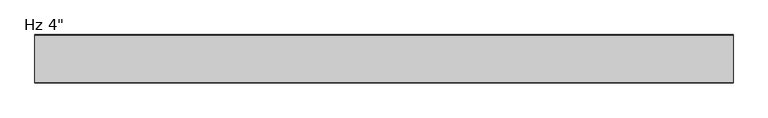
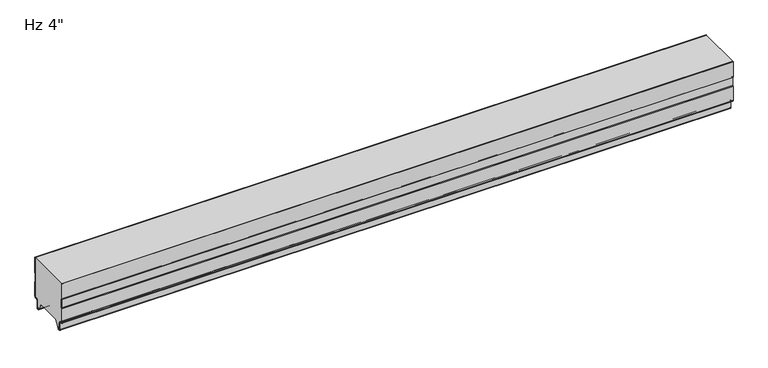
"""IFC4 building model written with IfcOpenShell, lengths in millimetres: plate geometry."""

from ifc_helpers import new_model, si_unit, frame, origin, place, context, project, spatial, polyline, circle_curve, source, transform, mapped, element, save
from ifc_brep_helpers import plane_surface, cylinder_surface, revolved_surface, advanced_brep


def plate_3c78480a(model_context):
    return source(origin(), model_context, "Body", "AdvancedBrep", [
        advanced_brep(
        [(-730.0, -1.0, 59.9218553), (-730.0, -1.0, 94.95), (-730.0, 0.0, 94.95), (-730.0, 0.0, 59.479416), (-730.0, -1.1911595, 58.4068912), (-730.0, -1.1911595, 39.5087751), (-730.0, 0.0, 38.4362503), (-730.0, 0.0, 5.8272193), (-730.0, -2.9772904, 2.8499526), (-730.0, -5.2691742, 2.8499526), (-730.0, -8.2464427, -0.1273159), (-730.0, -8.2464427, -15.7237419), (-730.0, -9.8343193, -17.3116185), (-730.0, -12.905868, -17.3116185), (-730.0, -14.4937445, -15.7237419), (-730.0, -14.4937445, -13.3687064), (-730.0, -13.4937445, -13.3687064), (-730.0, -13.4937445, -15.7237419), (-730.0, -12.905868, -16.3116185), (-730.0, -9.8343193, -16.3116185), (-730.0, -9.2464427, -15.7237419), (-730.0, -9.2464427, -0.1273159), (-730.0, -5.2691742, 3.8499526), (-730.0, -2.9772904, 3.8499526), (-730.0, -1.0000218, 5.82722), (-730.0, -1.0, 37.993811), (-730.0, -2.1911595, 39.0663358), (-730.0, -2.1911595, 58.8493305), (730.0, 0.0, 59.479416), (730.0, 0.0, 94.95), (730.0, -1.0, 94.95), (730.0, -1.0, 59.9218553), (730.0, -2.1911595, 58.8493305), (730.0, -2.1911595, 39.0663358), (730.0, -1.0, 37.993811), (730.0, -1.0, 5.82722), (730.0, -2.9772904, 3.8499526), (730.0, -5.2691742, 3.8499526), (730.0, -9.2464427, -0.1273159), (730.0, -9.2464427, -15.7237419), (730.0, -9.8343193, -16.3116185), (730.0, -12.905868, -16.3116185), (730.0, -13.4937445, -15.7237419), (730.0, -13.4937445, -13.3687064), (730.0, -14.4937445, -13.3687064), (730.0, -14.4937445, -15.7237419), (730.0, -12.905868, -17.3116185), (730.0, -9.8343193, -17.3116185), (730.0, -8.2464427, -15.7237419), (730.0, -8.2464427, -0.1273159), (730.0, -5.2691742, 2.8499526), (730.0, -2.9772904, 2.8499526), (730.0, -2.18e-05, 5.8272193), (730.0, 0.0, 38.4362503), (730.0, -1.1911595, 39.5087751), (730.0, -1.1911595, 58.4068912)],
        [
            (0, 1),
            (1, 2),
            (2, 3),
            (3, 4),
            (4, 5),
            (5, 6),
            (6, 7),
            (7, 8, circle_curve(frame((-730.0, -2.9772904, 5.8272211), z_axis=(-1.0, 0.0, 0.0), x_axis=(0.0, 1.0, 0.0)), 2.9772685)),
            (8, 9),
            (9, 10, circle_curve(frame((-730.0, -5.2691742, -0.1273159), z_axis=(1.0, 0.0, 0.0), x_axis=(0.0, 1.0, 0.0)), 2.9772685)),
            (10, 11),
            (11, 12, circle_curve(frame((-730.0, -9.8343193, -15.7237419), z_axis=(-1.0, 0.0, 0.0), x_axis=(0.0, 1.0, 0.0)), 1.5878765)),
            (12, 13),
            (13, 14, circle_curve(frame((-730.0, -12.905868, -15.7237419), z_axis=(-1.0, 0.0, 0.0), x_axis=(0.0, 1.0, 0.0)), 1.5878765)),
            (14, 15),
            (15, 16),
            (16, 17),
            (17, 18, circle_curve(frame((-730.0, -12.905868, -15.7237419), z_axis=(1.0, 0.0, 0.0), x_axis=(0.0, 1.0, 0.0)), 0.5878765)),
            (18, 19),
            (19, 20, circle_curve(frame((-730.0, -9.8343193, -15.7237419), z_axis=(1.0, 0.0, 0.0), x_axis=(0.0, 1.0, 0.0)), 0.5878765)),
            (20, 21),
            (21, 22, circle_curve(frame((-730.0, -5.2691742, -0.1273159), z_axis=(-1.0, 0.0, 0.0), x_axis=(0.0, 1.0, 0.0)), 3.9772685)),
            (22, 23),
            (23, 24, circle_curve(frame((-730.0, -2.9772904, 5.8272212), z_axis=(1.0, 0.0, 0.0), x_axis=(0.0, 1.0, 0.0)), 1.9772685)),
            (24, 25),
            (25, 26),
            (26, 27),
            (27, 0),
            (28, 29),
            (29, 30),
            (30, 31),
            (31, 32),
            (32, 33),
            (33, 34),
            (34, 35),
            (35, 36, circle_curve(frame((730.0, -2.9772904, 5.8272212), z_axis=(-1.0, 0.0, 0.0), x_axis=(0.0, 1.0, 0.0)), 1.9772685)),
            (36, 37),
            (37, 38, circle_curve(frame((730.0, -5.2691742, -0.1273159), z_axis=(1.0, 0.0, 0.0), x_axis=(0.0, 1.0, 0.0)), 3.9772685)),
            (38, 39),
            (39, 40, circle_curve(frame((730.0, -9.8343193, -15.7237419), z_axis=(-1.0, 0.0, 0.0), x_axis=(0.0, 1.0, 0.0)), 0.5878765)),
            (40, 41),
            (41, 42, circle_curve(frame((730.0, -12.905868, -15.7237419), z_axis=(-1.0, 0.0, 0.0), x_axis=(0.0, 1.0, 0.0)), 0.5878765)),
            (42, 43),
            (43, 44),
            (44, 45),
            (45, 46, circle_curve(frame((730.0, -12.905868, -15.7237419), z_axis=(1.0, 0.0, 0.0), x_axis=(0.0, 1.0, 0.0)), 1.5878765)),
            (46, 47),
            (47, 48, circle_curve(frame((730.0, -9.8343193, -15.7237419), z_axis=(1.0, 0.0, 0.0), x_axis=(0.0, 1.0, 0.0)), 1.5878765)),
            (48, 49),
            (49, 50, circle_curve(frame((730.0, -5.2691742, -0.1273159), z_axis=(-1.0, 0.0, 0.0), x_axis=(0.0, 1.0, 0.0)), 2.9772685)),
            (50, 51),
            (51, 52, circle_curve(frame((730.0, -2.9772904, 5.8272211), z_axis=(1.0, 0.0, 0.0), x_axis=(0.0, 1.0, 0.0)), 2.9772685)),
            (52, 53),
            (53, 54),
            (54, 55),
            (55, 28),
            (30, 1),
            (0, 31),
            (27, 32),
            (26, 33),
            (25, 34),
            (24, 35),
            (23, 36),
            (22, 37),
            (21, 38),
            (20, 39),
            (19, 40),
            (18, 41),
            (17, 42),
            (16, 43),
            (15, 44),
            (14, 45),
            (13, 46),
            (12, 47),
            (11, 48),
            (10, 49),
            (9, 50),
            (8, 51),
            (7, 52),
            (6, 53),
            (5, 54),
            (4, 55),
            (3, 28),
            (2, 29),
        ],
        [
            plane_surface(frame((-730.0, 0.0, 576.2625), z_axis=(-1.0, 0.0, 0.0), x_axis=(0.0, 1.0, 0.0))),
            plane_surface(frame((730.0, 0.0, 576.2625), z_axis=(1.0, 0.0, 0.0), x_axis=(0.0, 1.0, 0.0))),
            plane_surface(frame((-730.0, -1.0, 113.6164312), z_axis=(0.0, -1.0, 0.0), x_axis=(1.0, 0.0, 0.0))),
            plane_surface(frame((-730.0, -1.0, 59.9218553), z_axis=(0.0, -0.6691306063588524, 0.7431448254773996), x_axis=(1.0, 0.0, 0.0))),
            plane_surface(frame((-730.0, -2.1911595, 58.8493305), z_axis=(0.0, -1.0, 0.0), x_axis=(1.0, 0.0, 0.0))),
            plane_surface(frame((-730.0, -2.1911595, 39.0663358), z_axis=(0.0, -0.6691306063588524, -0.7431448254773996), x_axis=(1.0, 0.0, 0.0))),
            plane_surface(frame((-730.0, -1.0, 37.993811), z_axis=(0.0, -1.0, 0.0), x_axis=(1.0, 0.0, 0.0))),
            revolved_surface(polyline([(730.0, -1.0000218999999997, 5.8272212), (-730.0, -1.0000218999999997, 5.8272212)]), (-730.0, -2.9772904, 5.8272212), (1.0, 0.0, 0.0)),
            plane_surface(frame((-730.0, -2.9772904, 3.8499526), z_axis=(0.0, 0.0, 1.0), x_axis=(1.0, 0.0, 0.0))),
            cylinder_surface(frame((-730.0, -5.2691742, -0.1273159), z_axis=(-1.0, 0.0, 0.0), x_axis=(0.0, 1.0, 0.0)), 3.9772685),
            plane_surface(frame((-730.0, -9.2464427, -0.1273159), z_axis=(0.0, -1.0, 0.0), x_axis=(1.0, 0.0, 0.0))),
            revolved_surface(polyline([(730.0, -9.2464428, -15.7237419), (-730.0, -9.2464428, -15.7237419)]), (-730.0, -9.8343193, -15.7237419), (1.0, 0.0, 0.0)),
            plane_surface(frame((-730.0, -9.8343193, -16.3116185), z_axis=(0.0, 0.0, 1.0), x_axis=(1.0, 0.0, 0.0))),
            revolved_surface(polyline([(730.0, -12.3179915, -15.7237419), (-730.0, -12.3179915, -15.7237419)]), (-730.0, -12.905868, -15.7237419), (1.0, 0.0, 0.0)),
            plane_surface(frame((-730.0, -13.4937445, -15.7237419), z_axis=(0.0, 1.0, 0.0), x_axis=(1.0, 0.0, 0.0))),
            plane_surface(frame((-730.0, -13.4937445, -13.3687064), z_axis=(0.0, 0.0, 1.0), x_axis=(1.0, 0.0, 0.0))),
            plane_surface(frame((-730.0, -14.4937445, -13.3687064), z_axis=(0.0, -1.0, 0.0), x_axis=(1.0, 0.0, 0.0))),
            cylinder_surface(frame((-730.0, -12.905868, -15.7237419), z_axis=(-1.0, 0.0, 0.0), x_axis=(0.0, 1.0, 0.0)), 1.5878765),
            plane_surface(frame((-730.0, -12.905868, -17.3116185), z_axis=(0.0, 0.0, -1.0), x_axis=(1.0, 0.0, 0.0))),
            cylinder_surface(frame((-730.0, -9.8343193, -15.7237419), z_axis=(-1.0, 0.0, 0.0), x_axis=(0.0, 1.0, 0.0)), 1.5878765),
            plane_surface(frame((-730.0, -8.2464427, -15.7237419), z_axis=(0.0, 1.0, 0.0), x_axis=(1.0, 0.0, 0.0))),
            revolved_surface(polyline([(730.0, -2.2919057, -0.1273159), (-730.0, -2.2919057, -0.1273159)]), (-730.0, -5.2691742, -0.1273159), (1.0, 0.0, 0.0)),
            plane_surface(frame((-730.0, -5.2691742, 2.8499526), z_axis=(0.0, 0.0, -1.0), x_axis=(1.0, 0.0, 0.0))),
            cylinder_surface(frame((-730.0, -2.9772904, 5.8272211), z_axis=(-1.0, 0.0, 0.0), x_axis=(0.0, 1.0, 0.0)), 2.9772685),
            plane_surface(frame((-730.0, 0.0, 5.8272193), z_axis=(0.0, 1.0, 0.0), x_axis=(1.0, 0.0, 0.0))),
            plane_surface(frame((-730.0, 0.0, 38.4362503), z_axis=(0.0, 0.6691306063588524, 0.7431448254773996), x_axis=(1.0, 0.0, 0.0))),
            plane_surface(frame((-730.0, -1.1911595, 39.5087751), z_axis=(0.0, 1.0, 0.0), x_axis=(1.0, 0.0, 0.0))),
            plane_surface(frame((-730.0, -1.1911595, 58.4068912), z_axis=(0.0, 0.6691306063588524, -0.7431448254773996), x_axis=(1.0, 0.0, 0.0))),
            plane_surface(frame((-730.0, 0.0, 59.479416), z_axis=(0.0, 1.0, 0.0), x_axis=(1.0, 0.0, 0.0))),
            plane_surface(frame((730.0, 10.0, 94.95), z_axis=(0.0, 0.0, 1.0), x_axis=(-1.0, 0.0, 0.0))),
        ],
        [
            (0, [[1, 2, 3, 4, 5, 6, 7, 8, 9, 10, 11, 12, 13, 14, 15, 16, 17, 18, 19, 20, 21, 22, 23, 24, 25, 26, 27, 28]]),
            (1, [[29, 30, 31, 32, 33, 34, 35, 36, 37, 38, 39, 40, 41, 42, 43, 44, 45, 46, 47, 48, 49, 50, 51, 52, 53, 54, 55, 56]]),
            (2, [[-31, 57, -1, 58]]),
            (3, [[59, -32, -58, -28]]),
            (4, [[60, -33, -59, -27]]),
            (5, [[61, -34, -60, -26]]),
            (6, [[62, -35, -61, -25]]),
            (7, [[63, -36, -62, -24]]),
            (8, [[64, -37, -63, -23]]),
            (9, [[65, -38, -64, -22]]),
            (10, [[66, -39, -65, -21]]),
            (11, [[67, -40, -66, -20]]),
            (12, [[68, -41, -67, -19]]),
            (13, [[69, -42, -68, -18]]),
            (14, [[70, -43, -69, -17]]),
            (15, [[71, -44, -70, -16]]),
            (16, [[72, -45, -71, -15]]),
            (17, [[73, -46, -72, -14]]),
            (18, [[74, -47, -73, -13]]),
            (19, [[75, -48, -74, -12]]),
            (20, [[76, -49, -75, -11]]),
            (21, [[77, -50, -76, -10]]),
            (22, [[78, -51, -77, -9]]),
            (23, [[79, -52, -78, -8]]),
            (24, [[80, -53, -79, -7]]),
            (25, [[81, -54, -80, -6]]),
            (26, [[82, -55, -81, -5]]),
            (27, [[83, -56, -82, -4]]),
            (28, [[-3, 84, -29, -83]]),
            (29, [[-57, -30, -84, -2]]),
        ],
    ),
        advanced_brep(
        [(-730.0, -101.6, 59.479416), (-730.0, -101.6, 94.95), (-730.0, -100.6, 94.95), (-730.0, -100.6, 59.9218553), (-730.0, -99.4088405, 58.8493305), (-730.0, -99.4088405, 39.0663358), (-730.0, -100.6, 37.993811), (-730.0, -100.6, 5.82722), (-730.0, -98.6227096, 3.8499526), (-730.0, -96.3308258, 3.8499526), (-730.0, -92.3535573, -0.1273159), (-730.0, -92.3535573, -15.7237419), (-730.0, -91.7656807, -16.3116185), (-730.0, -88.694132, -16.3116185), (-730.0, -88.1062555, -15.7237419), (-730.0, -88.1062555, -13.3687064), (-730.0, -87.1062555, -13.3687064), (-730.0, -87.1062555, -15.7237419), (-730.0, -88.694132, -17.3116185), (-730.0, -91.7656807, -17.3116185), (-730.0, -93.3535573, -15.7237419), (-730.0, -93.3535573, -0.1273159), (-730.0, -96.3308258, 2.8499526), (-730.0, -98.6227096, 2.8499526), (-730.0, -101.5999782, 5.8272193), (-730.0, -101.6, 38.4362503), (-730.0, -100.4088405, 39.5087751), (-730.0, -100.4088405, 58.4068912), (730.0, -100.6, 59.9218553), (730.0, -100.6, 94.95), (730.0, -101.6, 94.95), (730.0, -101.6, 59.479416), (730.0, -100.4088405, 58.4068912), (730.0, -100.4088405, 39.5087751), (730.0, -101.6, 38.4362503), (730.0, -101.6, 5.8272193), (730.0, -98.6227096, 2.8499526), (730.0, -96.3308258, 2.8499526), (730.0, -93.3535573, -0.1273159), (730.0, -93.3535573, -15.7237419), (730.0, -91.7656807, -17.3116185), (730.0, -88.694132, -17.3116185), (730.0, -87.1062555, -15.7237419), (730.0, -87.1062555, -13.3687064), (730.0, -88.1062555, -13.3687064), (730.0, -88.1062555, -15.7237419), (730.0, -88.694132, -16.3116185), (730.0, -91.7656807, -16.3116185), (730.0, -92.3535573, -15.7237419), (730.0, -92.3535573, -0.1273159), (730.0, -96.3308258, 3.8499526), (730.0, -98.6227096, 3.8499526), (730.0, -100.5999782, 5.82722), (730.0, -100.6, 37.993811), (730.0, -99.4088405, 39.0663358), (730.0, -99.4088405, 58.8493305)],
        [
            (0, 1),
            (1, 2),
            (2, 3),
            (3, 4),
            (4, 5),
            (5, 6),
            (6, 7),
            (7, 8, circle_curve(frame((-730.0, -98.6227096, 5.8272212), z_axis=(1.0, 0.0, 0.0), x_axis=(0.0, 0.0, -1.0)), 1.9772685)),
            (8, 9),
            (9, 10, circle_curve(frame((-730.0, -96.3308258, -0.1273159), z_axis=(-1.0, 0.0, 0.0), x_axis=(0.0, 0.0, -1.0)), 3.9772685)),
            (10, 11),
            (11, 12, circle_curve(frame((-730.0, -91.7656807, -15.7237419), z_axis=(1.0, 0.0, 0.0), x_axis=(0.0, 0.0, -1.0)), 0.5878765)),
            (12, 13),
            (13, 14, circle_curve(frame((-730.0, -88.694132, -15.7237419), z_axis=(1.0, 0.0, 0.0), x_axis=(0.0, 0.0, -1.0)), 0.5878765)),
            (14, 15),
            (15, 16),
            (16, 17),
            (17, 18, circle_curve(frame((-730.0, -88.694132, -15.7237419), z_axis=(-1.0, 0.0, 0.0), x_axis=(0.0, 0.0, -1.0)), 1.5878765)),
            (18, 19),
            (19, 20, circle_curve(frame((-730.0, -91.7656807, -15.7237419), z_axis=(-1.0, 0.0, 0.0), x_axis=(0.0, 0.0, -1.0)), 1.5878765)),
            (20, 21),
            (21, 22, circle_curve(frame((-730.0, -96.3308258, -0.1273159), z_axis=(1.0, 0.0, 0.0), x_axis=(0.0, 0.0, -1.0)), 2.9772685)),
            (22, 23),
            (23, 24, circle_curve(frame((-730.0, -98.6227096, 5.8272211), z_axis=(-1.0, 0.0, 0.0), x_axis=(0.0, 0.0, -1.0)), 2.9772685)),
            (24, 25),
            (25, 26),
            (26, 27),
            (27, 0),
            (28, 29),
            (29, 30),
            (30, 31),
            (31, 32),
            (32, 33),
            (33, 34),
            (34, 35),
            (35, 36, circle_curve(frame((730.0, -98.6227096, 5.8272211), z_axis=(1.0, 0.0, 0.0), x_axis=(0.0, 0.0, -1.0)), 2.9772685)),
            (36, 37),
            (37, 38, circle_curve(frame((730.0, -96.3308258, -0.1273159), z_axis=(-1.0, 0.0, 0.0), x_axis=(0.0, 0.0, -1.0)), 2.9772685)),
            (38, 39),
            (39, 40, circle_curve(frame((730.0, -91.7656807, -15.7237419), z_axis=(1.0, 0.0, 0.0), x_axis=(0.0, 0.0, -1.0)), 1.5878765)),
            (40, 41),
            (41, 42, circle_curve(frame((730.0, -88.694132, -15.7237419), z_axis=(1.0, 0.0, 0.0), x_axis=(0.0, 0.0, -1.0)), 1.5878765)),
            (42, 43),
            (43, 44),
            (44, 45),
            (45, 46, circle_curve(frame((730.0, -88.694132, -15.7237419), z_axis=(-1.0, 0.0, 0.0), x_axis=(0.0, 0.0, -1.0)), 0.5878765)),
            (46, 47),
            (47, 48, circle_curve(frame((730.0, -91.7656807, -15.7237419), z_axis=(-1.0, 0.0, 0.0), x_axis=(0.0, 0.0, -1.0)), 0.5878765)),
            (48, 49),
            (49, 50, circle_curve(frame((730.0, -96.3308258, -0.1273159), z_axis=(1.0, 0.0, 0.0), x_axis=(0.0, 0.0, -1.0)), 3.9772685)),
            (50, 51),
            (51, 52, circle_curve(frame((730.0, -98.6227096, 5.8272212), z_axis=(-1.0, 0.0, 0.0), x_axis=(0.0, 0.0, -1.0)), 1.9772685)),
            (52, 53),
            (53, 54),
            (54, 55),
            (55, 28),
            (1, 30),
            (29, 2),
            (0, 31),
            (27, 32),
            (26, 33),
            (25, 34),
            (24, 35),
            (23, 36),
            (22, 37),
            (21, 38),
            (20, 39),
            (19, 40),
            (18, 41),
            (17, 42),
            (16, 43),
            (15, 44),
            (14, 45),
            (13, 46),
            (12, 47),
            (11, 48),
            (10, 49),
            (9, 50),
            (8, 51),
            (7, 52),
            (6, 53),
            (5, 54),
            (4, 55),
            (3, 28),
        ],
        [
            plane_surface(frame((-730.0, -101.6, 576.2625), z_axis=(-1.0, 0.0, 0.0), x_axis=(0.0, -1.0, 0.0))),
            plane_surface(frame((730.0, -101.6, 576.2625), z_axis=(1.0, 0.0, 0.0), x_axis=(0.0, -1.0, 0.0))),
            plane_surface(frame((730.0, 10.0, 94.95), z_axis=(0.0, 0.0, 1.0), x_axis=(-1.0, 0.0, 0.0))),
            plane_surface(frame((-730.0, -101.6, 114.0588705), z_axis=(0.0, -1.0, 0.0), x_axis=(1.0, 0.0, 0.0))),
            plane_surface(frame((-730.0, -101.6, 59.479416), z_axis=(0.0, -0.6691306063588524, -0.7431448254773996), x_axis=(1.0, 0.0, 0.0))),
            plane_surface(frame((-730.0, -100.4088405, 58.4068912), z_axis=(0.0, -1.0, 0.0), x_axis=(1.0, 0.0, 0.0))),
            plane_surface(frame((-730.0, -100.4088405, 39.5087751), z_axis=(0.0, -0.6691306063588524, 0.7431448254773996), x_axis=(1.0, 0.0, 0.0))),
            plane_surface(frame((-730.0, -101.6, 38.4362503), z_axis=(0.0, -1.0, 0.0), x_axis=(1.0, 0.0, 0.0))),
            cylinder_surface(frame((-730.0, -98.6227096, 5.8272211), z_axis=(-1.0, 0.0, 0.0), x_axis=(0.0, 0.0, -1.0)), 2.9772685),
            plane_surface(frame((-730.0, -98.6227096, 2.8499526), z_axis=(0.0, 0.0, -1.0), x_axis=(1.0, 0.0, 0.0))),
            revolved_surface(polyline([(730.0, -96.3308258, -3.1045844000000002), (-730.0, -96.3308258, -3.1045844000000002)]), (-730.0, -96.3308258, -0.1273159), (1.0, 0.0, 0.0)),
            plane_surface(frame((-730.0, -93.3535573, -0.1273159), z_axis=(0.0, -1.0, 0.0), x_axis=(1.0, 0.0, 0.0))),
            cylinder_surface(frame((-730.0, -91.7656807, -15.7237419), z_axis=(-1.0, 0.0, 0.0), x_axis=(0.0, 0.0, -1.0)), 1.5878765),
            plane_surface(frame((-730.0, -91.7656807, -17.3116185), z_axis=(0.0, 0.0, -1.0), x_axis=(1.0, 0.0, 0.0))),
            cylinder_surface(frame((-730.0, -88.694132, -15.7237419), z_axis=(-1.0, 0.0, 0.0), x_axis=(0.0, 0.0, -1.0)), 1.5878765),
            plane_surface(frame((-730.0, -87.1062555, -15.7237419), z_axis=(0.0, 1.0, 0.0), x_axis=(1.0, 0.0, 0.0))),
            plane_surface(frame((-730.0, -87.1062555, -13.3687064), z_axis=(0.0, 0.0, 1.0), x_axis=(1.0, 0.0, 0.0))),
            plane_surface(frame((-730.0, -88.1062555, -13.3687064), z_axis=(0.0, -1.0, 0.0), x_axis=(1.0, 0.0, 0.0))),
            revolved_surface(polyline([(730.0, -88.694132, -16.3116184), (-730.0, -88.694132, -16.3116184)]), (-730.0, -88.694132, -15.7237419), (1.0, 0.0, 0.0)),
            plane_surface(frame((-730.0, -88.694132, -16.3116185), z_axis=(0.0, 0.0, 1.0), x_axis=(1.0, 0.0, 0.0))),
            revolved_surface(polyline([(730.0, -91.7656807, -16.3116184), (-730.0, -91.7656807, -16.3116184)]), (-730.0, -91.7656807, -15.7237419), (1.0, 0.0, 0.0)),
            plane_surface(frame((-730.0, -92.3535573, -15.7237419), z_axis=(0.0, 1.0, 0.0), x_axis=(1.0, 0.0, 0.0))),
            cylinder_surface(frame((-730.0, -96.3308258, -0.1273159), z_axis=(-1.0, 0.0, 0.0), x_axis=(0.0, 0.0, -1.0)), 3.9772685),
            plane_surface(frame((-730.0, -96.3308258, 3.8499526), z_axis=(0.0, 0.0, 1.0), x_axis=(1.0, 0.0, 0.0))),
            revolved_surface(polyline([(730.0, -98.6227096, 3.8499527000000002), (-730.0, -98.6227096, 3.8499527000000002)]), (-730.0, -98.6227096, 5.8272212), (1.0, 0.0, 0.0)),
            plane_surface(frame((-730.0, -100.6, 5.82722), z_axis=(0.0, 1.0, 0.0), x_axis=(1.0, 0.0, 0.0))),
            plane_surface(frame((-730.0, -100.6, 37.993811), z_axis=(0.0, 0.6691306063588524, -0.7431448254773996), x_axis=(1.0, 0.0, 0.0))),
            plane_surface(frame((-730.0, -99.4088405, 39.0663358), z_axis=(0.0, 1.0, 0.0), x_axis=(1.0, 0.0, 0.0))),
            plane_surface(frame((-730.0, -99.4088405, 58.8493305), z_axis=(0.0, 0.6691306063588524, 0.7431448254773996), x_axis=(1.0, 0.0, 0.0))),
            plane_surface(frame((-730.0, -100.6, 59.9218553), z_axis=(0.0, 1.0, 0.0), x_axis=(1.0, 0.0, 0.0))),
        ],
        [
            (0, [[1, 2, 3, 4, 5, 6, 7, 8, 9, 10, 11, 12, 13, 14, 15, 16, 17, 18, 19, 20, 21, 22, 23, 24, 25, 26, 27, 28]]),
            (1, [[29, 30, 31, 32, 33, 34, 35, 36, 37, 38, 39, 40, 41, 42, 43, 44, 45, 46, 47, 48, 49, 50, 51, 52, 53, 54, 55, 56]]),
            (2, [[57, -30, 58, -2]]),
            (3, [[-31, -57, -1, 59]]),
            (4, [[60, -32, -59, -28]]),
            (5, [[61, -33, -60, -27]]),
            (6, [[62, -34, -61, -26]]),
            (7, [[63, -35, -62, -25]]),
            (8, [[64, -36, -63, -24]]),
            (9, [[65, -37, -64, -23]]),
            (10, [[66, -38, -65, -22]]),
            (11, [[67, -39, -66, -21]]),
            (12, [[68, -40, -67, -20]]),
            (13, [[69, -41, -68, -19]]),
            (14, [[70, -42, -69, -18]]),
            (15, [[71, -43, -70, -17]]),
            (16, [[72, -44, -71, -16]]),
            (17, [[73, -45, -72, -15]]),
            (18, [[74, -46, -73, -14]]),
            (19, [[75, -47, -74, -13]]),
            (20, [[76, -48, -75, -12]]),
            (21, [[77, -49, -76, -11]]),
            (22, [[78, -50, -77, -10]]),
            (23, [[79, -51, -78, -9]]),
            (24, [[80, -52, -79, -8]]),
            (25, [[81, -53, -80, -7]]),
            (26, [[82, -54, -81, -6]]),
            (27, [[83, -55, -82, -5]]),
            (28, [[84, -56, -83, -4]]),
            (29, [[-3, -58, -29, -84]]),
        ],
    ),
        advanced_brep(
        [(-730.0, -100.6, 59.9218553), (-730.0, -100.6, 94.95), (-730.0, -1.0, 94.95), (-730.0, -1.0, 59.9218553), (-730.0, -2.1911595, 58.8493305), (-730.0, -2.1911595, 39.0663358), (-730.0, -1.0000109, 37.993811), (-730.0, -1.0000109, 5.8272239), (-730.0, -2.9772849, 3.8499499), (-730.0, -5.2691749, 3.8499499), (-730.0, -9.246442, -0.1273173), (-730.0, -9.246442, -15.7237417), (-730.0, -9.8343189, -16.3116186), (-730.0, -12.9058679, -16.3116186), (-730.0, -13.4937446, -15.723742), (-730.0, -13.4937446, -13.3687064), (-730.0, -14.4937446, -13.3687064), (-730.0, -14.4937446, -15.6582851), (-730.0, -23.7509179, 0.0), (-730.0, -77.8490865, 0.0), (-730.0, -87.1062554, -15.6582851), (-730.0, -87.1062554, -13.3687064), (-730.0, -88.1062554, -13.3687064), (-730.0, -88.1062554, -15.723742), (-730.0, -88.6941321, -16.3116186), (-730.0, -91.7656811, -16.3116186), (-730.0, -92.353558, -15.7237417), (-730.0, -92.353558, -0.1273173), (-730.0, -96.3308251, 3.8499499), (-730.0, -98.6227151, 3.8499499), (-730.0, -100.5999891, 5.8272239), (-730.0, -100.5999891, 37.993811), (-730.0, -99.4088405, 39.0663358), (-730.0, -99.4088405, 58.8493305), (730.0, -77.8490865, 0.0), (730.0, -23.7509179, 0.0), (730.0, -14.4937446, -15.6582851), (730.0, -14.4937446, -13.3687064), (730.0, -13.4937446, -13.3687064), (730.0, -13.4937446, -15.723742), (730.0, -12.9058679, -16.3116186), (730.0, -9.8343189, -16.3116186), (730.0, -9.246442, -15.7237417), (730.0, -9.246442, -0.1273173), (730.0, -5.2691749, 3.8499499), (730.0, -2.9772849, 3.8499499), (730.0, -1.0000109, 5.8272239), (730.0, -1.0000109, 37.993811), (730.0, -2.1911595, 39.0663358), (730.0, -2.1911595, 58.8493305), (730.0, -1.0, 59.9218553), (730.0, -1.0, 94.95), (730.0, -100.6, 94.95), (730.0, -100.6, 59.9218553), (730.0, -99.4088405, 58.8493305), (730.0, -99.4088405, 39.0663358), (730.0, -100.5999891, 37.993811), (730.0, -100.5999891, 5.8272239), (730.0, -98.6227151, 3.8499499), (730.0, -96.3308251, 3.8499499), (730.0, -92.353558, -0.1273173), (730.0, -92.353558, -15.7237417), (730.0, -91.7656811, -16.3116186), (730.0, -88.6941321, -16.3116186), (730.0, -88.1062554, -15.723742), (730.0, -88.1062554, -13.3687064), (730.0, -87.1062554, -13.3687064), (730.0, -87.1062554, -15.6582851)],
        [
            (0, 1),
            (1, 2),
            (2, 3),
            (3, 4),
            (4, 5),
            (5, 6),
            (6, 7),
            (7, 8, circle_curve(frame((-730.0, -2.9772849, 5.8272239), z_axis=(-1.0, 0.0, 0.0), x_axis=(0.0, 1.0, 0.0)), 1.977274)),
            (8, 9),
            (9, 10, circle_curve(frame((-730.0, -5.2691749, -0.1273173), z_axis=(1.0, 0.0, 0.0), x_axis=(0.0, 1.0, 0.0)), 3.9772671)),
            (10, 11),
            (11, 12, circle_curve(frame((-730.0, -9.8343189, -15.7237417), z_axis=(-1.0, 0.0, 0.0), x_axis=(0.0, 1.0, 0.0)), 0.5878769)),
            (12, 13),
            (13, 14, circle_curve(frame((-730.0, -12.9058679, -15.723742), z_axis=(-1.0, 0.0, 0.0), x_axis=(0.0, 1.0, 0.0)), 0.5878766)),
            (14, 15),
            (15, 16),
            (16, 17),
            (17, 18),
            (18, 19),
            (19, 20),
            (20, 21),
            (21, 22),
            (22, 23),
            (23, 24, circle_curve(frame((-730.0, -88.6941321, -15.723742), z_axis=(-1.0, 0.0, 0.0), x_axis=(0.0, 0.0, -1.0)), 0.5878766)),
            (24, 25),
            (25, 26, circle_curve(frame((-730.0, -91.7656811, -15.7237417), z_axis=(-1.0, 0.0, 0.0), x_axis=(0.0, 0.0, -1.0)), 0.5878769)),
            (26, 27),
            (27, 28, circle_curve(frame((-730.0, -96.3308251, -0.1273173), z_axis=(1.0, 0.0, 0.0), x_axis=(0.0, 0.0, -1.0)), 3.9772671)),
            (28, 29),
            (29, 30, circle_curve(frame((-730.0, -98.6227151, 5.8272239), z_axis=(-1.0, 0.0, 0.0), x_axis=(0.0, 0.0, -1.0)), 1.977274)),
            (30, 31),
            (31, 32),
            (32, 33),
            (33, 0),
            (34, 35),
            (35, 36),
            (36, 37),
            (37, 38),
            (38, 39),
            (39, 40, circle_curve(frame((730.0, -12.9058679, -15.723742), z_axis=(1.0, 0.0, 0.0), x_axis=(0.0, 1.0, 0.0)), 0.5878766)),
            (40, 41),
            (41, 42, circle_curve(frame((730.0, -9.8343189, -15.7237417), z_axis=(1.0, 0.0, 0.0), x_axis=(0.0, 1.0, 0.0)), 0.5878769)),
            (42, 43),
            (43, 44, circle_curve(frame((730.0, -5.2691749, -0.1273173), z_axis=(-1.0, 0.0, 0.0), x_axis=(0.0, 1.0, 0.0)), 3.9772671)),
            (44, 45),
            (45, 46, circle_curve(frame((730.0, -2.9772849, 5.8272239), z_axis=(1.0, 0.0, 0.0), x_axis=(0.0, 1.0, 0.0)), 1.977274)),
            (46, 47),
            (47, 48),
            (48, 49),
            (49, 50),
            (50, 51),
            (51, 52),
            (52, 53),
            (53, 54),
            (54, 55),
            (55, 56),
            (56, 57),
            (57, 58, circle_curve(frame((730.0, -98.6227151, 5.8272239), z_axis=(1.0, 0.0, 0.0), x_axis=(0.0, 0.0, -1.0)), 1.977274)),
            (58, 59),
            (59, 60, circle_curve(frame((730.0, -96.3308251, -0.1273173), z_axis=(-1.0, 0.0, 0.0), x_axis=(0.0, 0.0, -1.0)), 3.9772671)),
            (60, 61),
            (61, 62, circle_curve(frame((730.0, -91.7656811, -15.7237417), z_axis=(1.0, 0.0, 0.0), x_axis=(0.0, 0.0, -1.0)), 0.5878769)),
            (62, 63),
            (63, 64, circle_curve(frame((730.0, -88.6941321, -15.723742), z_axis=(1.0, 0.0, 0.0), x_axis=(0.0, 0.0, -1.0)), 0.5878766)),
            (64, 65),
            (65, 66),
            (66, 67),
            (67, 34),
            (17, 36),
            (35, 18),
            (16, 37),
            (15, 38),
            (14, 39),
            (13, 40),
            (12, 41),
            (11, 42),
            (10, 43),
            (9, 44),
            (8, 45),
            (7, 46),
            (6, 47),
            (5, 48),
            (4, 49),
            (3, 50),
            (2, 51),
            (34, 19),
            (1, 52),
            (0, 53),
            (33, 54),
            (32, 55),
            (31, 56),
            (30, 57),
            (29, 58),
            (28, 59),
            (27, 60),
            (26, 61),
            (25, 62),
            (24, 63),
            (23, 64),
            (22, 65),
            (21, 66),
            (20, 67),
        ],
        [
            plane_surface(frame((-730.0, -100.6, 576.2625), z_axis=(-1.0, 0.0, 0.0), x_axis=(0.0, -1.0, 0.0))),
            plane_surface(frame((730.0, -100.6, 576.2625), z_axis=(1.0, 0.0, 0.0), x_axis=(0.0, -1.0, 0.0))),
            plane_surface(frame((-730.0, -23.7509179, 0.0), z_axis=(0.0, -0.8608169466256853, -0.5089147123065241), x_axis=(1.0, 0.0, 0.0))),
            plane_surface(frame((-730.0, -14.4937446, -15.6582851), z_axis=(0.0, 1.0, 0.0), x_axis=(1.0, 0.0, 0.0))),
            plane_surface(frame((-730.0, -14.4937446, -13.3687064), z_axis=(0.0, 0.0, -1.0), x_axis=(1.0, 0.0, 0.0))),
            plane_surface(frame((-730.0, -13.4937446, -13.3687064), z_axis=(0.0, -1.0, 0.0), x_axis=(1.0, 0.0, 0.0))),
            cylinder_surface(frame((-730.0, -12.9058679, -15.723742), z_axis=(-1.0, 0.0, 0.0), x_axis=(0.0, 1.0, 0.0)), 0.5878766),
            plane_surface(frame((-730.0, -12.9058679, -16.3116186), z_axis=(0.0, 0.0, -1.0), x_axis=(1.0, 0.0, 0.0))),
            cylinder_surface(frame((-730.0, -9.8343189, -15.7237417), z_axis=(-1.0, 0.0, 0.0), x_axis=(0.0, 1.0, 0.0)), 0.5878769),
            plane_surface(frame((-730.0, -9.246442, -15.7237417), z_axis=(0.0, 1.0, 0.0), x_axis=(1.0, 0.0, 0.0))),
            revolved_surface(polyline([(730.0, -1.2919078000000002, -0.1273173), (-730.0, -1.2919078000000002, -0.1273173)]), (-730.0, -5.2691749, -0.1273173), (1.0, 0.0, 0.0)),
            plane_surface(frame((-730.0, -5.2691749, 3.8499499), z_axis=(0.0, 0.0, -1.0), x_axis=(1.0, 0.0, 0.0))),
            cylinder_surface(frame((-730.0, -2.9772849, 5.8272239), z_axis=(-1.0, 0.0, 0.0), x_axis=(0.0, 1.0, 0.0)), 1.977274),
            plane_surface(frame((-730.0, -1.0000109, 5.8272239), z_axis=(0.0, 1.0, 0.0), x_axis=(1.0, 0.0, 0.0))),
            plane_surface(frame((-730.0, -1.0000109, 37.993811), z_axis=(0.0, 0.6691339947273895, 0.7431417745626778), x_axis=(1.0, 0.0, 0.0))),
            plane_surface(frame((-730.0, -2.1911595, 39.0663358), z_axis=(0.0, 1.0, 0.0), x_axis=(1.0, 0.0, 0.0))),
            plane_surface(frame((-730.0, -2.1911595, 58.8493305), z_axis=(0.0, 0.6691306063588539, -0.7431448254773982), x_axis=(1.0, 0.0, 0.0))),
            plane_surface(frame((-730.0, -1.0, 59.9218553), z_axis=(0.0, 1.0, 0.0), x_axis=(1.0, 0.0, 0.0))),
            plane_surface(frame((-730.0, -77.8490865, 0.0), z_axis=(0.0, 0.0, -1.0), x_axis=(1.0, 0.0, 0.0))),
            plane_surface(frame((730.0, 10.0, 94.95), z_axis=(0.0, 0.0, 1.0), x_axis=(-1.0, 0.0, 0.0))),
            plane_surface(frame((-730.0, -100.6, 113.6164312), z_axis=(0.0, -1.0, 0.0), x_axis=(1.0, 0.0, 0.0))),
            plane_surface(frame((-730.0, -100.6, 59.9218553), z_axis=(0.0, -0.6691306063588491, -0.7431448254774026), x_axis=(1.0, 0.0, 0.0))),
            plane_surface(frame((-730.0, -99.4088405, 58.8493305), z_axis=(0.0, -1.0, 0.0), x_axis=(1.0, 0.0, 0.0))),
            plane_surface(frame((-730.0, -99.4088405, 39.0663358), z_axis=(0.0, -0.6691339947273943, 0.7431417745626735), x_axis=(1.0, 0.0, 0.0))),
            plane_surface(frame((-730.0, -100.5999891, 37.993811), z_axis=(0.0, -1.0, 0.0), x_axis=(1.0, 0.0, 0.0))),
            cylinder_surface(frame((-730.0, -98.6227151, 5.8272239), z_axis=(-1.0, 0.0, 0.0), x_axis=(0.0, 0.0, -1.0)), 1.977274),
            plane_surface(frame((-730.0, -98.6227151, 3.8499499), z_axis=(0.0, 0.0, -1.0), x_axis=(1.0, 0.0, 0.0))),
            revolved_surface(polyline([(730.0, -96.3308251, -4.1045844), (-730.0, -96.3308251, -4.1045844)]), (-730.0, -96.3308251, -0.1273173), (1.0, 0.0, 0.0)),
            plane_surface(frame((-730.0, -92.353558, -0.1273173), z_axis=(0.0, -1.0, 0.0), x_axis=(1.0, 0.0, 0.0))),
            cylinder_surface(frame((-730.0, -91.7656811, -15.7237417), z_axis=(-1.0, 0.0, 0.0), x_axis=(0.0, 0.0, -1.0)), 0.5878769),
            plane_surface(frame((-730.0, -91.7656811, -16.3116186), z_axis=(0.0, 0.0, -1.0), x_axis=(1.0, 0.0, 0.0))),
            cylinder_surface(frame((-730.0, -88.6941321, -15.723742), z_axis=(-1.0, 0.0, 0.0), x_axis=(0.0, 0.0, -1.0)), 0.5878766),
            plane_surface(frame((-730.0, -88.1062554, -15.723742), z_axis=(0.0, 1.0, 0.0), x_axis=(1.0, 0.0, 0.0))),
            plane_surface(frame((-730.0, -88.1062554, -13.3687064), z_axis=(0.0, 0.0, -1.0), x_axis=(1.0, 0.0, 0.0))),
            plane_surface(frame((-730.0, -87.1062554, -13.3687064), z_axis=(0.0, -1.0, 0.0), x_axis=(1.0, 0.0, 0.0))),
            plane_surface(frame((-730.0, -87.1062554, -15.6582851), z_axis=(0.0, 0.8608169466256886, -0.5089147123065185), x_axis=(1.0, 0.0, 0.0))),
        ],
        [
            (0, [[1, 2, 3, 4, 5, 6, 7, 8, 9, 10, 11, 12, 13, 14, 15, 16, 17, 18, 19, 20, 21, 22, 23, 24, 25, 26, 27, 28, 29, 30, 31, 32, 33, 34]]),
            (1, [[35, 36, 37, 38, 39, 40, 41, 42, 43, 44, 45, 46, 47, 48, 49, 50, 51, 52, 53, 54, 55, 56, 57, 58, 59, 60, 61, 62, 63, 64, 65, 66, 67, 68]]),
            (2, [[69, -36, 70, -18]]),
            (3, [[71, -37, -69, -17]]),
            (4, [[72, -38, -71, -16]]),
            (5, [[73, -39, -72, -15]]),
            (6, [[74, -40, -73, -14]]),
            (7, [[75, -41, -74, -13]]),
            (8, [[76, -42, -75, -12]]),
            (9, [[77, -43, -76, -11]]),
            (10, [[78, -44, -77, -10]]),
            (11, [[79, -45, -78, -9]]),
            (12, [[80, -46, -79, -8]]),
            (13, [[81, -47, -80, -7]]),
            (14, [[82, -48, -81, -6]]),
            (15, [[83, -49, -82, -5]]),
            (16, [[84, -50, -83, -4]]),
            (17, [[-3, 85, -51, -84]]),
            (18, [[86, -19, -70, -35]]),
            (19, [[87, -52, -85, -2]]),
            (20, [[-53, -87, -1, 88]]),
            (21, [[89, -54, -88, -34]]),
            (22, [[90, -55, -89, -33]]),
            (23, [[91, -56, -90, -32]]),
            (24, [[92, -57, -91, -31]]),
            (25, [[93, -58, -92, -30]]),
            (26, [[94, -59, -93, -29]]),
            (27, [[95, -60, -94, -28]]),
            (28, [[96, -61, -95, -27]]),
            (29, [[97, -62, -96, -26]]),
            (30, [[98, -63, -97, -25]]),
            (31, [[99, -64, -98, -24]]),
            (32, [[100, -65, -99, -23]]),
            (33, [[101, -66, -100, -22]]),
            (34, [[102, -67, -101, -21]]),
            (35, [[-86, -68, -102, -20]]),
        ],
    ),
    ])


if __name__ == "__main__":
    model = new_model("IFC4")
    model_context = context("Model", 3, world=origin())
    ifc_project = project(units=[si_unit("LENGTHUNIT", "METRE", prefix="MILLI")], contexts=[model_context])
    site = spatial("IfcSite", under=ifc_project)
    building = spatial("IfcBuilding", under=site)
    placement = place(None, origin())
    plate_shape = plate_3c78480a(model_context)
    element("IfcPlate", 1, ObjectType="KIP-SLI-FLI-R19-CP-Hz-SL_SL : Hz 4\"", at=placement, inside=building, context=model_context, shape_type="MappedRepresentation", body=[
        mapped(plate_shape, transform((0.0, 0.0, 0.0), x_axis=(1.0, 0.0, 0.0), y_axis=(0.0, 1.0, 0.0), z_axis=(0.0, 0.0, 1.0))),
    ])
    save(model, "model.ifc")
